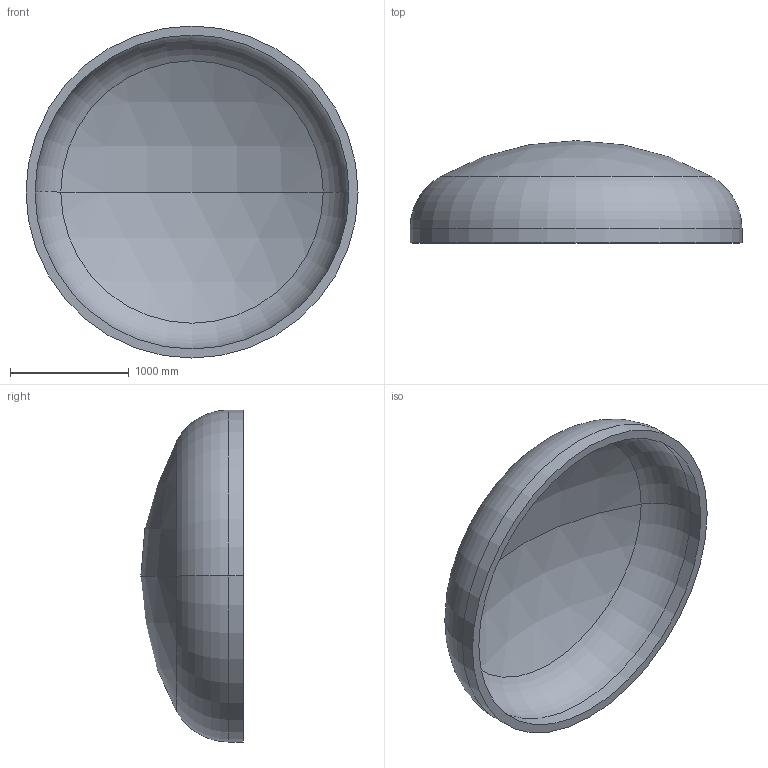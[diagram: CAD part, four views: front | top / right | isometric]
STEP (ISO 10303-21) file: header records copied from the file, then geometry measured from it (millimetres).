
FILE_DESCRIPTION (( 'STEP AP203' ), '1' );
FILE_NAME ('DIN 28013 Korbbogenform_-_Boden DIN 28013 - 2800 x 120 - I - s=76.step', '2016-07-01T17:11:03', ( '' ), ( '' ), 'SwSTEP 2.0', 'SolidWorks 2013', '' );
FILE_SCHEMA (( 'CONFIG_CONTROL_DESIGN' ));
Length unit declared in the file: millimetre
Products named in the file (1): DIN 28013 Korbbogenform_-_Boden DIN 28013 - 2800 x 120 - I - s=76
Bounding box: 2800 x 862.19 x 2800 mm (x, y, z)
Volume: 703200867.4 mm3; surface area: 19167762.3 mm2
Topology: 1 solids, 1 shells, 13 faces, 24 edges, 14 vertices
Faces by surface type: torus 4, cylinder 4, sphere 4, plane 1
Entity records: 407 total; most frequent: DIRECTION 72, CARTESIAN_POINT 52, ORIENTED_EDGE 48, AXIS2_PLACEMENT_3D 34, EDGE_CURVE 24, CIRCLE 20, EDGE_LOOP 14, VERTEX_POINT 14
